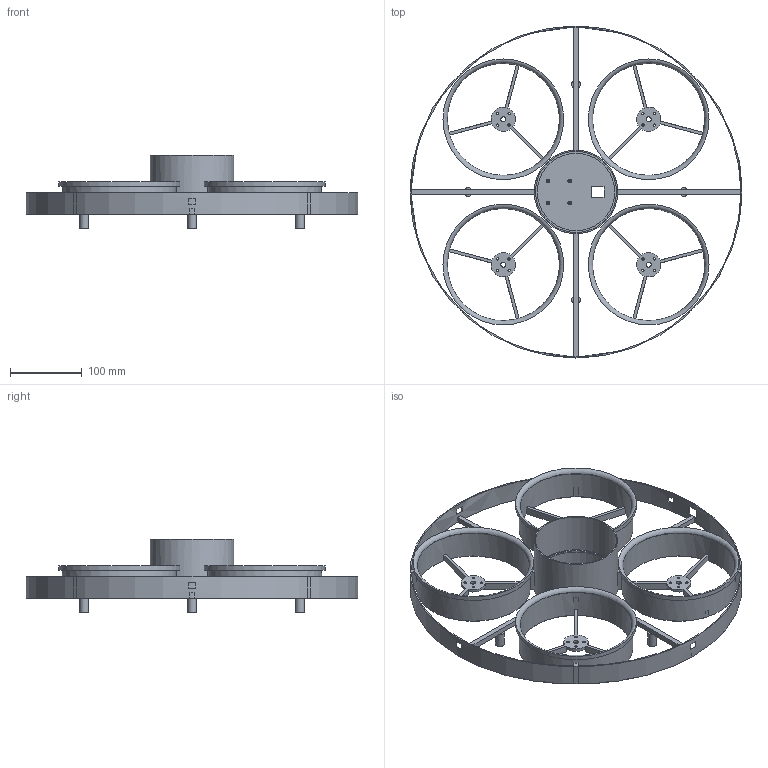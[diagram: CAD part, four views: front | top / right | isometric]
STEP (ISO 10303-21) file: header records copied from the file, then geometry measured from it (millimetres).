
FILE_DESCRIPTION(('FreeCAD Model'),'2;1');
FILE_NAME('Open CASCADE Shape Model','2026-10-22T12:56:02',('FreeCAD'),( 'FreeCAD'),'Open CASCADE STEP processor 8.0','FreeCAD','Unknown');
FILE_SCHEMA(('AUTOMOTIVE_DESIGN { 1 0 10303 214 1 1 1 1 }'));
Length unit declared in the file: millimetre
Products named in the file (1): Open CASCADE STEP translator 8.0 1
Bounding box: 462 x 462 x 102 mm (x, y, z)
Volume: 382024.7 mm3; surface area: 422657.8 mm2
Topology: 1 solids, 1 shells, 198 faces, 627 edges, 413 vertices
Faces by surface type: plane 129, cylinder 65, torus 4
Full cylindrical faces by diameter (mm): 1.8 x4, 3.2 x16, 5 x4, 7 x4, 12 x4, 107.8 x1, 112.8 x2, 116 x1, 156 x4, 158.4 x4, 168 x4, 462 x1
Entity records: 7210 total; most frequent: DIRECTION 1270, ORIENTED_EDGE 1254, CARTESIAN_POINT 1239, EDGE_CURVE 627, AXIS2_PLACEMENT_3D 444, VERTEX_POINT 413, LINE 382, VECTOR 382
